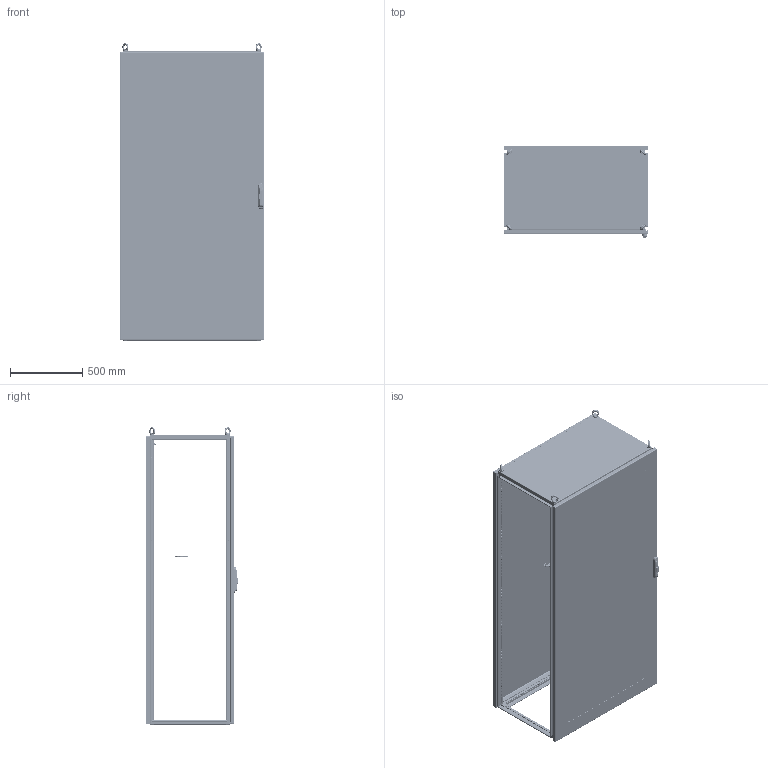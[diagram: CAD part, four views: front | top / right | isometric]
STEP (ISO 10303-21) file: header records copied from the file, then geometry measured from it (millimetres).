
FILE_DESCRIPTION(/* description */ (''),/* implementation_level */ '2;1');
FILE_NAME(/* name */ 'MLA10020060',/* time_stamp */ '2025-09-29T13:40:52+02:00',/* author */ ('INOXVENETA Spa'),/* organization */ ('www.inoxveneta.it '),/* preprocessor_version */ 'ST-DEVELOPER v19.4',/* originating_system */ 'Solid Edge',/* authorisation */ 'Unknown');
FILE_SCHEMA (('AUTOMOTIVE_DESIGN {1 0 10303 214 3 1 1}'));
Products named in the file (69): MLA10020060; F0000001.24; AE00198.03; M000X000.44; M0000000.14; AE00500.10; M000X000.45; M0000000.53; M0000000.39; M0000000.06; AE00219.03; AE00715.01; M000X000.59; M0000000.63; F0000000.18; F000X000.26; F000X000.27; F0000000.27; F0000000.07; AE00100.03_oa_0; AE00100.03_oa_1; AE00100.03_oa_2; AE00100.03_oa_3; F000X000.14; AE00989.12; M0000000.37; AE00701.03; F0000000.13; M000X001.59; F000X000.28_oa_4; F000X000.30_oa_5; F0000000.28_oa_6; F0000000.12; AE00222.15; AE00316.01; AE00992.10_oa_7; AE00992.31; AE00315.01; R1000002.14; AE00992.18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
Assembly tree (259 placements, depth 5):
  MLA10020060
    F0000001.24  x4
    AE00198.03  x16
    M000X000.44
      M0000000.14  x4
      AE00500.10  x48
      M000X000.45  x2
        M0000000.53
        M0000000.39
        M0000000.06
    AE00219.03  x8
    AE00715.01  x4
    M000X000.59
      M0000000.63
    F0000000.18
    F000X000.26
      F000X000.27
        F0000000.27
      F0000000.07  x2
      AE00100.03_oa_0
      AE00100.03_oa_1
      AE00100.03_oa_2
      AE00100.03_oa_3
    F000X000.14
      AE00989.12
    M0000000.37  x8
    AE00701.03  x4
    F0000000.13  x4
    M000X001.59
      F000X000.28_oa_4
        F000X000.30_oa_5
          F0000000.28_oa_6
        F0000000.12  x8
        AE00222.15  x8
        AE00316.01  x8
        AE00992.10_oa_7
        AE00992.31
        AE00315.01  x4
        R1000002.14  x2
        AE00992.18  x4
        AE00992.16
        AE00636.02  x8
        AE00409.01  x8
        AE00417.01  x2
        R000X002.20
          F0000002.22  x2
          F0000003.05  x2
          F0000001.46  x4
        AE00322.01  x4
      AE00413.05  x2
      M0000001.32
      C0000001.45  x2
      AE00322.01  x2
      F0000000.69  x10
      AE00192.01  x10
      ZM090300.001_oa_8
    F0000000.08  x4
    M000X000.49_oa_9
      M0000000.56
      M0000000.57
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Bounding box: 1000 x 638.7 x 2056.98 mm (x, y, z)
Volume: 17185194.3 mm3; surface area: 18229546 mm2
Topology: 269 solids, 270 shells, 16459 faces, 45108 edges, 29285 vertices
Faces by surface type: plane 10193, cylinder 4080, torus 738, cone 664, bspline 534, sphere 250
Full cylindrical faces by diameter (mm): 0.615 x4, 0.96 x1, 1.231 x4, 2 x4, 2.24 x2, 2.88 x1, 3 x1, 3.242 x2, 3.5 x1, 4 x13, 4.134 x11, 4.25 x220, 4.5 x1056, 4.917 x73, 4.918 x8, 5 x13, 5.25 x2, 5.5 x10, 6 x78, 6.1 x20, 6.2 x8, 6.5 x34, 6.647 x6, 7.5 x2, 7.827 x6, 8 x4, 8.3 x8, 8.5 x2, 8.8 x1, 9 x48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
Entity records: 151970 total; most frequent: CARTESIAN_POINT 35441, ORIENTED_EDGE 22340, DIRECTION 22261, EDGE_CURVE 11172, LINE 7735, VECTOR 7735, VERTEX_POINT 7558, AXIS2_PLACEMENT_3D 7263
